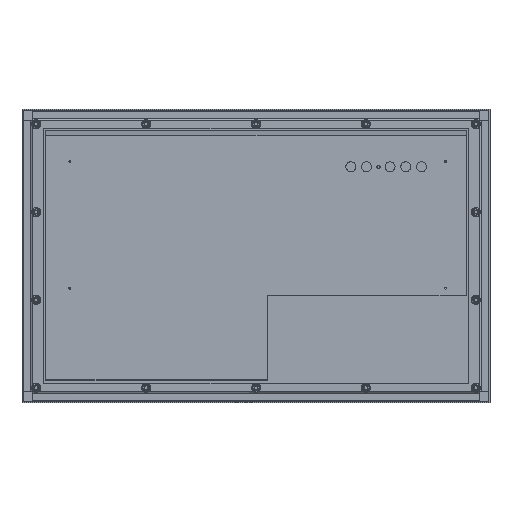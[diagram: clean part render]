
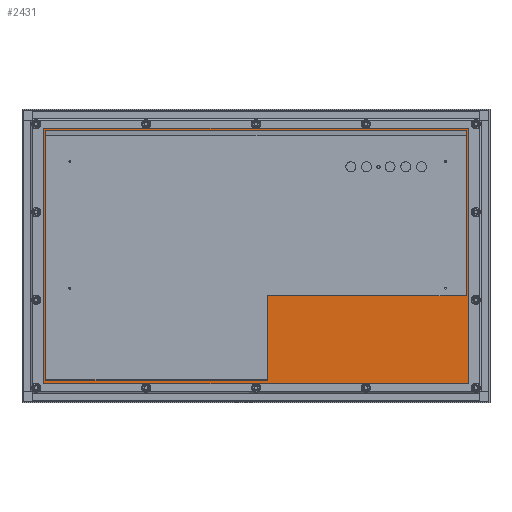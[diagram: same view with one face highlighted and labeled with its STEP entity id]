
A CAD part, top view. The second image highlights one B-rep face of the part: STEP entity #2431.
In plain terms, the highlighted planar face has unit normal (0, 0, 1).
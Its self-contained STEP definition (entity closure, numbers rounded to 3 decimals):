
#51 = VECTOR ( 'NONE', #6101, 1000. ) ;
#93 = VECTOR ( 'NONE', #896, 1000. ) ;
#135 = ORIENTED_EDGE ( 'NONE', *, *, #4601, .T. ) ;
#250 = VERTEX_POINT ( 'NONE', #1600 ) ;
#290 = AXIS2_PLACEMENT_3D ( 'NONE', #1555, #4887, #10638 ) ;
#310 = CARTESIAN_POINT ( 'NONE',  ( -271.555, -165.648, 18.974 ) ) ;
#580 = LINE ( 'NONE', #5291, #51 ) ;
#654 = EDGE_CURVE ( 'NONE', #3074, #5523, #8090, .T. ) ;
#896 = DIRECTION ( 'NONE',  ( 0., 1., 0. ) ) ;
#1061 = ORIENTED_EDGE ( 'NONE', *, *, #7420, .T. ) ;
#1110 = ORIENTED_EDGE ( 'NONE', *, *, #5011, .T. ) ;
#1147 = DIRECTION ( 'NONE',  ( 0.707, -0.707, 0. ) ) ;
#1190 = CARTESIAN_POINT ( 'NONE',  ( 271.555, 165.623, 18.974 ) ) ;
#1326 = LINE ( 'NONE', #4032, #7417 ) ;
#1555 = CARTESIAN_POINT ( 'NONE',  ( 0., 0., 18.974 ) ) ;
#1600 = CARTESIAN_POINT ( 'NONE',  ( -271.555, 165.623, 18.974 ) ) ;
#1698 = CARTESIAN_POINT ( 'NONE',  ( -277.967, -159.236, 18.974 ) ) ;
#1782 = ORIENTED_EDGE ( 'NONE', *, *, #654, .T. ) ;
#2088 = EDGE_CURVE ( 'NONE', #250, #3074, #10153, .T. ) ;
#2118 = LINE ( 'NONE', #310, #8155 ) ;
#2176 = VERTEX_POINT ( 'NONE', #1190 ) ;
#2291 = LINE ( 'NONE', #6671, #93 ) ;
#2410 = CARTESIAN_POINT ( 'NONE',  ( -277.967, -159.236, 18.974 ) ) ;
#2431 = ADVANCED_FACE ( 'NONE', ( #8981 ), #9804, .F. ) ;
#2518 = VECTOR ( 'NONE', #7764, 1000. ) ;
#2748 = CARTESIAN_POINT ( 'NONE',  ( 271.555, 165.623, 18.974 ) ) ;
#2907 = CARTESIAN_POINT ( 'NONE',  ( -271.555, -165.648, 18.974 ) ) ;
#3074 = VERTEX_POINT ( 'NONE', #9087 ) ;
#3307 = VECTOR ( 'NONE', #4428, 1000. ) ;
#3578 = VECTOR ( 'NONE', #7631, 1000. ) ;
#4032 = CARTESIAN_POINT ( 'NONE',  ( 277.967, -159.236, 18.974 ) ) ;
#4069 = DIRECTION ( 'NONE',  ( 0., -1., 0. ) ) ;
#4421 = ORIENTED_EDGE ( 'NONE', *, *, #7051, .T. ) ;
#4428 = DIRECTION ( 'NONE',  ( -0.707, 0.707, 0. ) ) ;
#4601 = EDGE_CURVE ( 'NONE', #7637, #6294, #2291, .T. ) ;
#4739 = ORIENTED_EDGE ( 'NONE', *, *, #2088, .T. ) ;
#4887 = DIRECTION ( 'NONE',  ( 0., 0., -1. ) ) ;
#5011 = EDGE_CURVE ( 'NONE', #6294, #2176, #9884, .T. ) ;
#5058 = ORIENTED_EDGE ( 'NONE', *, *, #8822, .T. ) ;
#5291 = CARTESIAN_POINT ( 'NONE',  ( 271.555, -165.648, 18.974 ) ) ;
#5523 = VERTEX_POINT ( 'NONE', #1698 ) ;
#5660 = CARTESIAN_POINT ( 'NONE',  ( 277.967, -159.236, 18.974 ) ) ;
#6101 = DIRECTION ( 'NONE',  ( 1., 0., 0. ) ) ;
#6220 = EDGE_CURVE ( 'NONE', #6336, #10710, #580, .T. ) ;
#6294 = VERTEX_POINT ( 'NONE', #7007 ) ;
#6325 = EDGE_LOOP ( 'NONE', ( #1782, #1061, #10400, #4421, #135, #1110, #5058, #4739 ) ) ;
#6336 = VERTEX_POINT ( 'NONE', #2907 ) ;
#6671 = CARTESIAN_POINT ( 'NONE',  ( 277.967, 159.211, 18.974 ) ) ;
#6811 = CARTESIAN_POINT ( 'NONE',  ( -277.967, 159.211, 18.974 ) ) ;
#7007 = CARTESIAN_POINT ( 'NONE',  ( 277.967, 159.211, 18.974 ) ) ;
#7051 = EDGE_CURVE ( 'NONE', #10710, #7637, #1326, .T. ) ;
#7417 = VECTOR ( 'NONE', #8960, 1000. ) ;
#7420 = EDGE_CURVE ( 'NONE', #5523, #6336, #2118, .T. ) ;
#7631 = DIRECTION ( 'NONE',  ( -0.707, -0.707, 0. ) ) ;
#7637 = VERTEX_POINT ( 'NONE', #5660 ) ;
#7735 = CARTESIAN_POINT ( 'NONE',  ( -271.555, 165.623, 18.974 ) ) ;
#7764 = DIRECTION ( 'NONE',  ( -1., 0., 0. ) ) ;
#8090 = LINE ( 'NONE', #2410, #10030 ) ;
#8155 = VECTOR ( 'NONE', #1147, 1000. ) ;
#8822 = EDGE_CURVE ( 'NONE', #2176, #250, #9099, .T. ) ;
#8960 = DIRECTION ( 'NONE',  ( 0.707, 0.707, 0. ) ) ;
#8981 = FACE_OUTER_BOUND ( 'NONE', #6325, .T. ) ;
#9050 = CARTESIAN_POINT ( 'NONE',  ( 271.555, -165.648, 18.974 ) ) ;
#9087 = CARTESIAN_POINT ( 'NONE',  ( -277.967, 159.211, 18.974 ) ) ;
#9099 = LINE ( 'NONE', #7735, #2518 ) ;
#9804 = PLANE ( 'NONE',  #290 ) ;
#9884 = LINE ( 'NONE', #2748, #3307 ) ;
#10030 = VECTOR ( 'NONE', #4069, 1000. ) ;
#10153 = LINE ( 'NONE', #6811, #3578 ) ;
#10400 = ORIENTED_EDGE ( 'NONE', *, *, #6220, .T. ) ;
#10638 = DIRECTION ( 'NONE',  ( -1., 0., 0. ) ) ;
#10710 = VERTEX_POINT ( 'NONE', #9050 ) ;
